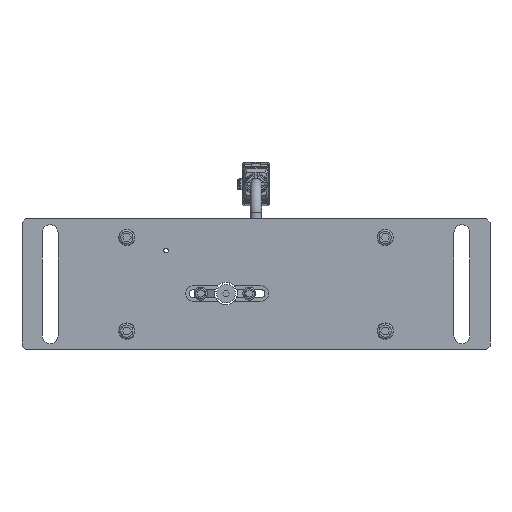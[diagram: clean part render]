
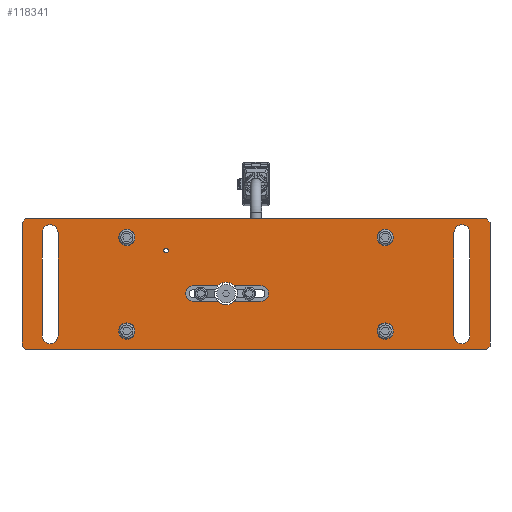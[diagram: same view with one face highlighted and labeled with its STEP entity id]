
A CAD part, front view. The second image highlights one B-rep face of the part: STEP entity #118341.
In plain terms, the highlighted planar face has unit normal (0, -1, 0) as drawn and (0, 0, 1) by its records, which use the part's own axes.
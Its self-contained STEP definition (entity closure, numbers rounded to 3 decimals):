
#5485=CIRCLE('',#124367,4.25);
#5486=CIRCLE('',#124368,4.25);
#5487=CIRCLE('',#124369,4.25);
#5488=CIRCLE('',#124370,4.25);
#5489=CIRCLE('',#124371,1.23);
#5490=CIRCLE('',#124372,6.);
#5491=CIRCLE('',#124373,4.15);
#5492=CIRCLE('',#124374,6.);
#5493=CIRCLE('',#124375,4.15);
#5494=CIRCLE('',#124376,4.35);
#5495=CIRCLE('',#124377,4.35);
#5496=CIRCLE('',#124378,4.35);
#5497=CIRCLE('',#124379,4.35);
#9736=ORIENTED_EDGE('',*,*,#40998,.F.);
#9737=ORIENTED_EDGE('',*,*,#40999,.F.);
#9738=ORIENTED_EDGE('',*,*,#41000,.F.);
#9739=ORIENTED_EDGE('',*,*,#41001,.F.);
#9740=ORIENTED_EDGE('',*,*,#41002,.F.);
#9741=ORIENTED_EDGE('',*,*,#41003,.F.);
#9742=ORIENTED_EDGE('',*,*,#41004,.F.);
#9743=ORIENTED_EDGE('',*,*,#41005,.F.);
#9744=ORIENTED_EDGE('',*,*,#41006,.T.);
#9745=ORIENTED_EDGE('',*,*,#41007,.F.);
#9746=ORIENTED_EDGE('',*,*,#40997,.T.);
#9747=ORIENTED_EDGE('',*,*,#41008,.T.);
#9748=ORIENTED_EDGE('',*,*,#41009,.T.);
#9749=ORIENTED_EDGE('',*,*,#41010,.F.);
#9750=ORIENTED_EDGE('',*,*,#40993,.T.);
#9751=ORIENTED_EDGE('',*,*,#41011,.T.);
#9752=ORIENTED_EDGE('',*,*,#41012,.T.);
#9753=ORIENTED_EDGE('',*,*,#41013,.T.);
#9754=ORIENTED_EDGE('',*,*,#41014,.T.);
#9755=ORIENTED_EDGE('',*,*,#41015,.T.);
#9756=ORIENTED_EDGE('',*,*,#41016,.T.);
#9757=ORIENTED_EDGE('',*,*,#41017,.T.);
#9758=ORIENTED_EDGE('',*,*,#41018,.T.);
#9759=ORIENTED_EDGE('',*,*,#41019,.T.);
#9760=ORIENTED_EDGE('',*,*,#41020,.T.);
#9761=ORIENTED_EDGE('',*,*,#41021,.T.);
#9762=ORIENTED_EDGE('',*,*,#41022,.T.);
#9763=ORIENTED_EDGE('',*,*,#41023,.T.);
#9764=ORIENTED_EDGE('',*,*,#41024,.T.);
#40993=EDGE_CURVE('',#56622,#56623,#66552,.T.);
#40997=EDGE_CURVE('',#56625,#56627,#66556,.T.);
#40998=EDGE_CURVE('',#56628,#56629,#5485,.T.);
#40999=EDGE_CURVE('',#56630,#56628,#66557,.T.);
#41000=EDGE_CURVE('',#56631,#56630,#5486,.T.);
#41001=EDGE_CURVE('',#56629,#56631,#66558,.T.);
#41002=EDGE_CURVE('',#56632,#56633,#5487,.T.);
#41003=EDGE_CURVE('',#56634,#56632,#66559,.T.);
#41004=EDGE_CURVE('',#56635,#56634,#5488,.T.);
#41005=EDGE_CURVE('',#56633,#56635,#66560,.T.);
#41006=EDGE_CURVE('',#56636,#56636,#5489,.T.);
#41007=EDGE_CURVE('',#56625,#56637,#5490,.T.);
#41008=EDGE_CURVE('',#56627,#56638,#5491,.T.);
#41009=EDGE_CURVE('',#56638,#56639,#66561,.T.);
#41010=EDGE_CURVE('',#56622,#56639,#5492,.T.);
#41011=EDGE_CURVE('',#56623,#56640,#5493,.T.);
#41012=EDGE_CURVE('',#56640,#56637,#66562,.T.);
#41013=EDGE_CURVE('',#56641,#56642,#66563,.T.);
#41014=EDGE_CURVE('',#56642,#56643,#66564,.F.);
#41015=EDGE_CURVE('',#56643,#56644,#66565,.T.);
#41016=EDGE_CURVE('',#56644,#56645,#66566,.F.);
#41017=EDGE_CURVE('',#56645,#56646,#66567,.T.);
#41018=EDGE_CURVE('',#56646,#56647,#66568,.F.);
#41019=EDGE_CURVE('',#56647,#56648,#66569,.T.);
#41020=EDGE_CURVE('',#56648,#56641,#66570,.F.);
#41021=EDGE_CURVE('',#56649,#56649,#5494,.T.);
#41022=EDGE_CURVE('',#56650,#56650,#5495,.T.);
#41023=EDGE_CURVE('',#56651,#56651,#5496,.T.);
#41024=EDGE_CURVE('',#56652,#56652,#5497,.T.);
#56622=VERTEX_POINT('',#162520);
#56623=VERTEX_POINT('',#162522);
#56625=VERTEX_POINT('',#162527);
#56627=VERTEX_POINT('',#162531);
#56628=VERTEX_POINT('',#162535);
#56629=VERTEX_POINT('',#162536);
#56630=VERTEX_POINT('',#162538);
#56631=VERTEX_POINT('',#162540);
#56632=VERTEX_POINT('',#162543);
#56633=VERTEX_POINT('',#162544);
#56634=VERTEX_POINT('',#162546);
#56635=VERTEX_POINT('',#162548);
#56636=VERTEX_POINT('',#162551);
#56637=VERTEX_POINT('',#162553);
#56638=VERTEX_POINT('',#162555);
#56639=VERTEX_POINT('',#162557);
#56640=VERTEX_POINT('',#162560);
#56641=VERTEX_POINT('',#162563);
#56642=VERTEX_POINT('',#162564);
#56643=VERTEX_POINT('',#162566);
#56644=VERTEX_POINT('',#162568);
#56645=VERTEX_POINT('',#162570);
#56646=VERTEX_POINT('',#162572);
#56647=VERTEX_POINT('',#162574);
#56648=VERTEX_POINT('',#162576);
#56649=VERTEX_POINT('',#162579);
#56650=VERTEX_POINT('',#162581);
#56651=VERTEX_POINT('',#162583);
#56652=VERTEX_POINT('',#162585);
#66552=LINE('',#162523,#75866);
#66556=LINE('',#162532,#75870);
#66557=LINE('',#162537,#75871);
#66558=LINE('',#162541,#75872);
#66559=LINE('',#162545,#75873);
#66560=LINE('',#162549,#75874);
#66561=LINE('',#162556,#75875);
#66562=LINE('',#162561,#75876);
#66563=LINE('',#162562,#75877);
#66564=LINE('',#162565,#75878);
#66565=LINE('',#162567,#75879);
#66566=LINE('',#162569,#75880);
#66567=LINE('',#162571,#75881);
#66568=LINE('',#162573,#75882);
#66569=LINE('',#162575,#75883);
#66570=LINE('',#162577,#75884);
#75866=VECTOR('',#133992,1000.);
#75870=VECTOR('',#133998,1000.);
#75871=VECTOR('',#134003,1000.);
#75872=VECTOR('',#134006,1000.);
#75873=VECTOR('',#134009,1000.);
#75874=VECTOR('',#134012,1000.);
#75875=VECTOR('',#134019,1000.);
#75876=VECTOR('',#134024,1000.);
#75877=VECTOR('',#134025,1000.);
#75878=VECTOR('',#134026,1000.);
#75879=VECTOR('',#134027,1000.);
#75880=VECTOR('',#134028,1000.);
#75881=VECTOR('',#134029,1000.);
#75882=VECTOR('',#134030,1000.);
#75883=VECTOR('',#134031,1000.);
#75884=VECTOR('',#134032,1000.);
#85172=EDGE_LOOP('',(#9736,#9737,#9738,#9739));
#85173=EDGE_LOOP('',(#9740,#9741,#9742,#9743));
#85174=EDGE_LOOP('',(#9744));
#85175=EDGE_LOOP('',(#9745,#9746,#9747,#9748,#9749,#9750,#9751,#9752));
#85176=EDGE_LOOP('',(#9753,#9754,#9755,#9756,#9757,#9758,#9759,#9760));
#85177=EDGE_LOOP('',(#9761));
#85178=EDGE_LOOP('',(#9762));
#85179=EDGE_LOOP('',(#9763));
#85180=EDGE_LOOP('',(#9764));
#91379=FACE_BOUND('',#85172,.T.);
#91380=FACE_BOUND('',#85173,.T.);
#91381=FACE_BOUND('',#85174,.T.);
#91382=FACE_BOUND('',#85175,.T.);
#91383=FACE_BOUND('',#85176,.T.);
#91384=FACE_BOUND('',#85177,.T.);
#91385=FACE_BOUND('',#85178,.T.);
#91386=FACE_BOUND('',#85179,.T.);
#91387=FACE_BOUND('',#85180,.T.);
#97586=PLANE('',#124366);
#118341=ADVANCED_FACE('',(#91379,#91380,#91381,#91382,#91383,#91384,#91385,
#91386,#91387),#97586,.T.);
#124366=AXIS2_PLACEMENT_3D('',#162533,#133999,#134000);
#124367=AXIS2_PLACEMENT_3D('',#162534,#134001,#134002);
#124368=AXIS2_PLACEMENT_3D('',#162539,#134004,#134005);
#124369=AXIS2_PLACEMENT_3D('',#162542,#134007,#134008);
#124370=AXIS2_PLACEMENT_3D('',#162547,#134010,#134011);
#124371=AXIS2_PLACEMENT_3D('',#162550,#134013,#134014);
#124372=AXIS2_PLACEMENT_3D('',#162552,#134015,#134016);
#124373=AXIS2_PLACEMENT_3D('',#162554,#134017,#134018);
#124374=AXIS2_PLACEMENT_3D('',#162558,#134020,#134021);
#124375=AXIS2_PLACEMENT_3D('',#162559,#134022,#134023);
#124376=AXIS2_PLACEMENT_3D('',#162578,#134033,#134034);
#124377=AXIS2_PLACEMENT_3D('',#162580,#134035,#134036);
#124378=AXIS2_PLACEMENT_3D('',#162582,#134037,#134038);
#124379=AXIS2_PLACEMENT_3D('',#162584,#134039,#134040);
#133992=DIRECTION('',(-1.,0.,0.));
#133998=DIRECTION('',(1.,0.,0.));
#133999=DIRECTION('',(0.,0.,1.));
#134000=DIRECTION('',(1.,0.,0.));
#134001=DIRECTION('',(0.,0.,1.));
#134002=DIRECTION('',(1.,0.,0.));
#134003=DIRECTION('',(0.,1.,0.));
#134004=DIRECTION('',(0.,0.,1.));
#134005=DIRECTION('',(-1.,0.,0.));
#134006=DIRECTION('',(0.,-1.,0.));
#134007=DIRECTION('',(0.,0.,1.));
#134008=DIRECTION('',(1.,0.,0.));
#134009=DIRECTION('',(0.,1.,0.));
#134010=DIRECTION('',(0.,0.,1.));
#134011=DIRECTION('',(-1.,0.,0.));
#134012=DIRECTION('',(0.,-1.,0.));
#134013=DIRECTION('',(0.,0.,-1.));
#134014=DIRECTION('',(0.,-1.,0.));
#134015=DIRECTION('',(0.,0.,1.));
#134016=DIRECTION('',(1.,0.,0.));
#134017=DIRECTION('',(0.,0.,-1.));
#134018=DIRECTION('',(-1.,0.,0.));
#134019=DIRECTION('',(-1.,0.,0.));
#134020=DIRECTION('',(0.,0.,1.));
#134021=DIRECTION('',(1.,0.,0.));
#134022=DIRECTION('',(0.,0.,-1.));
#134023=DIRECTION('',(1.,0.,0.));
#134024=DIRECTION('',(1.,0.,0.));
#134025=DIRECTION('',(0.,1.,0.));
#134026=DIRECTION('',(0.707,-0.707,0.));
#134027=DIRECTION('',(-1.,0.,0.));
#134028=DIRECTION('',(0.707,0.707,0.));
#134029=DIRECTION('',(0.,-1.,0.));
#134030=DIRECTION('',(-0.707,0.707,0.));
#134031=DIRECTION('',(1.,0.,0.));
#134032=DIRECTION('',(-0.707,-0.707,0.));
#134033=DIRECTION('',(0.,0.,-1.));
#134034=DIRECTION('',(0.,-1.,0.));
#134035=DIRECTION('',(0.,0.,-1.));
#134036=DIRECTION('',(0.,-1.,0.));
#134037=DIRECTION('',(0.,0.,-1.));
#134038=DIRECTION('',(0.,-1.,0.));
#134039=DIRECTION('',(0.,0.,-1.));
#134040=DIRECTION('',(0.,-1.,0.));
#162520=CARTESIAN_POINT('',(-20.333,-9.15,0.));
#162522=CARTESIAN_POINT('',(-33.4,-9.15,0.));
#162523=CARTESIAN_POINT('',(2.6,-9.15,0.));
#162527=CARTESIAN_POINT('',(-11.667,-0.85,0.));
#162531=CARTESIAN_POINT('',(2.6,-0.85,0.));
#162532=CARTESIAN_POINT('',(-33.4,-0.85,0.));
#162533=CARTESIAN_POINT('',(-125.,-35.,0.));
#162534=CARTESIAN_POINT('',(110.,27.5,0.));
#162535=CARTESIAN_POINT('',(114.25,27.5,0.));
#162536=CARTESIAN_POINT('',(105.75,27.5,0.));
#162537=CARTESIAN_POINT('',(114.25,-27.5,0.));
#162538=CARTESIAN_POINT('',(114.25,-27.5,0.));
#162539=CARTESIAN_POINT('',(110.,-27.5,0.));
#162540=CARTESIAN_POINT('',(105.75,-27.5,0.));
#162541=CARTESIAN_POINT('',(105.75,27.5,0.));
#162542=CARTESIAN_POINT('',(-110.,27.5,0.));
#162543=CARTESIAN_POINT('',(-105.75,27.5,0.));
#162544=CARTESIAN_POINT('',(-114.25,27.5,0.));
#162545=CARTESIAN_POINT('',(-105.75,-27.5,0.));
#162546=CARTESIAN_POINT('',(-105.75,-27.5,0.));
#162547=CARTESIAN_POINT('',(-110.,-27.5,0.));
#162548=CARTESIAN_POINT('',(-114.25,-27.5,0.));
#162549=CARTESIAN_POINT('',(-114.25,27.5,0.));
#162550=CARTESIAN_POINT('',(-48.,18.,0.));
#162551=CARTESIAN_POINT('',(-48.,16.771,0.));
#162552=CARTESIAN_POINT('',(-16.,-5.,0.));
#162553=CARTESIAN_POINT('',(-20.333,-0.85,0.));
#162554=CARTESIAN_POINT('',(2.6,-5.,0.));
#162555=CARTESIAN_POINT('',(2.6,-9.15,0.));
#162556=CARTESIAN_POINT('',(2.6,-9.15,0.));
#162557=CARTESIAN_POINT('',(-11.667,-9.15,0.));
#162558=CARTESIAN_POINT('',(-16.,-5.,0.));
#162559=CARTESIAN_POINT('',(-33.4,-5.,0.));
#162560=CARTESIAN_POINT('',(-33.4,-0.85,0.));
#162561=CARTESIAN_POINT('',(-33.4,-0.85,0.));
#162562=CARTESIAN_POINT('',(125.,-35.,0.));
#162563=CARTESIAN_POINT('',(125.,-33.,0.));
#162564=CARTESIAN_POINT('',(125.,33.,0.));
#162565=CARTESIAN_POINT('',(34.,124.,0.));
#162566=CARTESIAN_POINT('',(123.,35.,0.));
#162567=CARTESIAN_POINT('',(125.,35.,0.));
#162568=CARTESIAN_POINT('',(-123.,35.,0.));
#162569=CARTESIAN_POINT('',(-159.,-1.,0.));
#162570=CARTESIAN_POINT('',(-125.,33.,0.));
#162571=CARTESIAN_POINT('',(-125.,35.,0.));
#162572=CARTESIAN_POINT('',(-125.,-33.,0.));
#162573=CARTESIAN_POINT('',(-124.,-34.,0.));
#162574=CARTESIAN_POINT('',(-123.,-35.,0.));
#162575=CARTESIAN_POINT('',(-125.,-35.,0.));
#162576=CARTESIAN_POINT('',(123.,-35.,0.));
#162577=CARTESIAN_POINT('',(-1.,-159.,0.));
#162578=CARTESIAN_POINT('',(-69.,25.,0.));
#162579=CARTESIAN_POINT('',(-69.,20.65,0.));
#162580=CARTESIAN_POINT('',(69.,25.,0.));
#162581=CARTESIAN_POINT('',(69.,20.65,0.));
#162582=CARTESIAN_POINT('',(69.,-25.,0.));
#162583=CARTESIAN_POINT('',(69.,-29.35,0.));
#162584=CARTESIAN_POINT('',(-69.,-25.,0.));
#162585=CARTESIAN_POINT('',(-69.,-29.35,0.));
